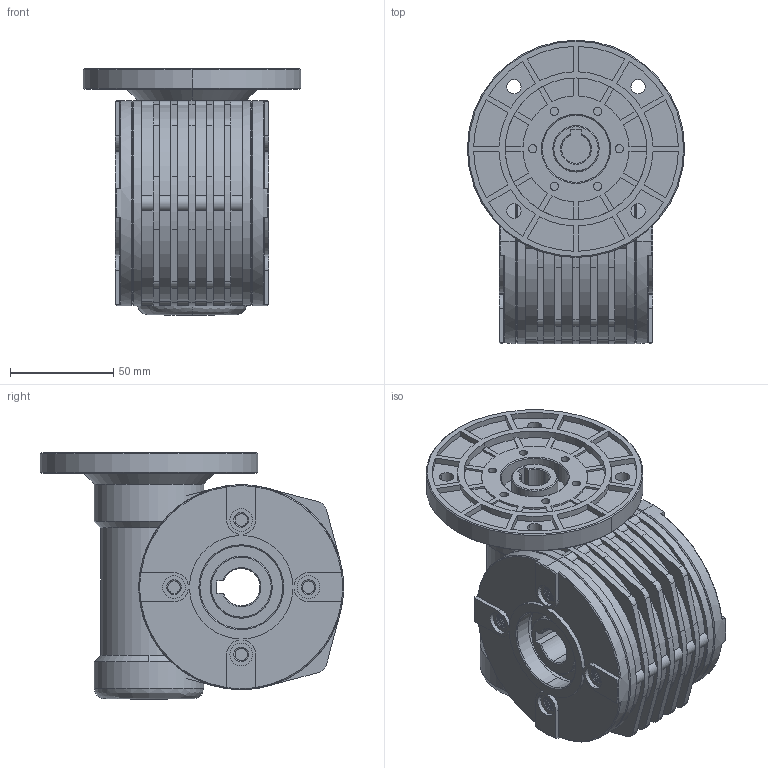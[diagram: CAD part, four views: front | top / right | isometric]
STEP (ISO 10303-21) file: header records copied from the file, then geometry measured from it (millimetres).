
FILE_DESCRIPTION (( 'STEP AP214' ), '1' );
FILE_NAME ('MVF44P 71B14.STEP', '2020-06-26T09:14:00', ( '' ), ( '' ), 'SwSTEP 2.0', 'SolidWorks 2016', '' );
FILE_SCHEMA (( 'AUTOMOTIVE_DESIGN' ));
Length unit declared in the file: millimetre
Products named in the file (1): MVF44P 71B14
Bounding box: 105 x 146.6 x 119.2 mm (x, y, z)
Volume: 766393.9 mm3; surface area: 128744.2 mm2
Topology: 14 solids, 14 shells, 1116 faces, 2717 edges, 1664 vertices
Faces by surface type: plane 383, cylinder 369, cone 299, bspline 65
Entity records: 45413 total; most frequent: CARTESIAN_POINT 6467, DIRECTION 5718, ORIENTED_EDGE 5434, EDGE_CURVE 2717, AXIS2_PLACEMENT_3D 2115, VERTEX_POINT 1664, LINE 1488, VECTOR 1488
